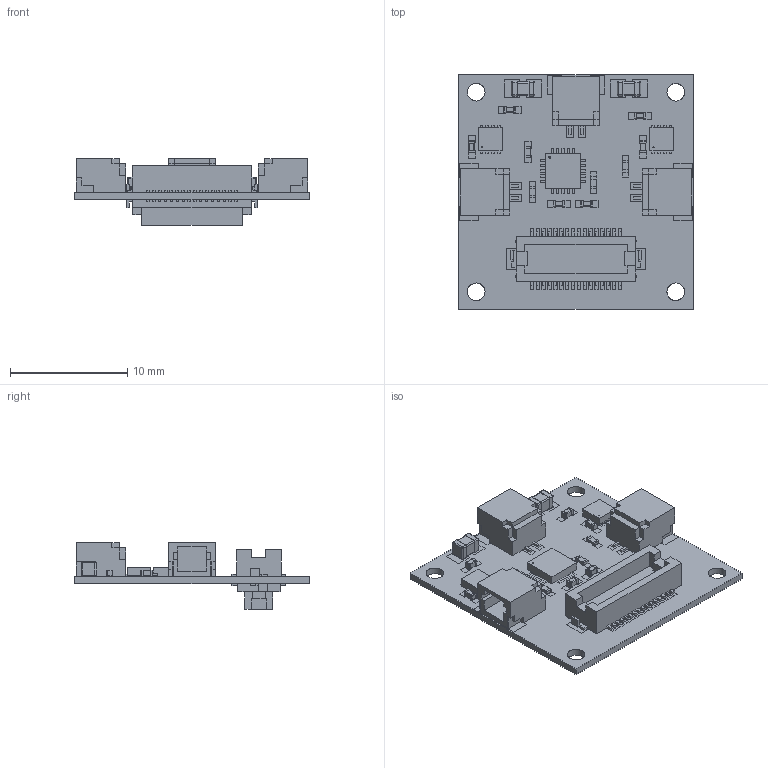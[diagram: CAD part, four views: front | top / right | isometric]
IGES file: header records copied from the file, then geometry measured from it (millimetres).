
Global section: file name: Filename.iges; native system: Open CASCADE 7.4; preprocessor: Open CASCADE IGES processor 7.4; date: 20200707.193358; units: millimetre
Bounding box: 20 x 20 x 5.7 mm (x, y, z)
Surface area: 3674.5 mm2 (no closed solid volume)
Topology: 0 solids, 0 shells, 4490 faces, 22156 edges, 27230 vertices
Faces by surface type: plane 3956, revolution 534
